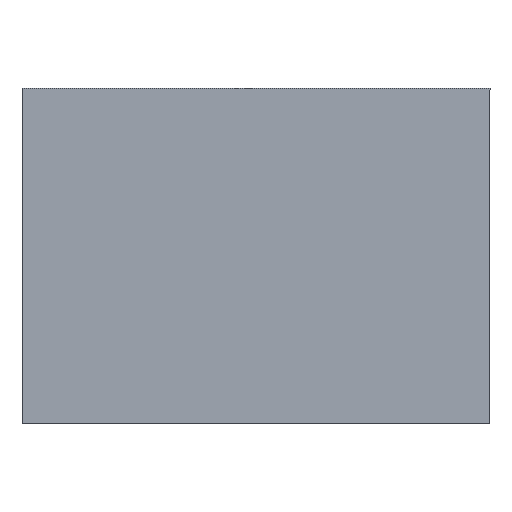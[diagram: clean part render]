
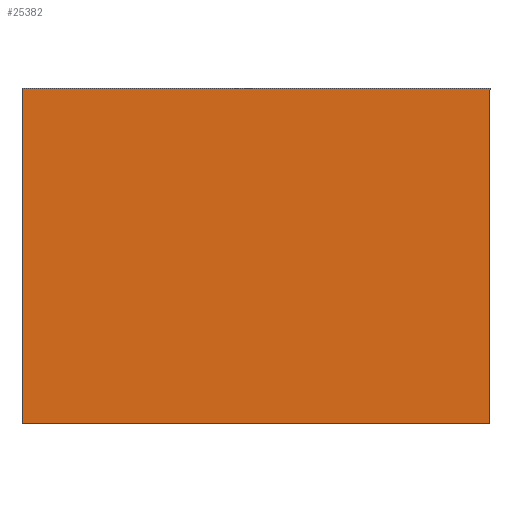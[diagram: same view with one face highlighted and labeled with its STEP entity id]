
A CAD part, top view. The second image highlights one B-rep face of the part: STEP entity #25382.
In plain terms, the highlighted planar face has unit normal (0, 0, 1).
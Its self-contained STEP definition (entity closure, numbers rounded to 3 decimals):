
#8740 = CARTESIAN_POINT ( 'NONE',  ( -1883.618, 1370.798, 3553. ) ) ;
#24502 = DIRECTION ( 'NONE',  ( 0., -1., 0. ) ) ;
#25382 = ADVANCED_FACE ( 'NONE', ( #46071 ), #262521, .T. ) ;
#40208 = CARTESIAN_POINT ( 'NONE',  ( -1883.618, -2364., 3553. ) ) ;
#46071 = FACE_OUTER_BOUND ( 'NONE', #234730, .T. ) ;
#46770 = VECTOR ( 'NONE', #241873, 1000. ) ;
#48116 = LINE ( 'NONE', #52869, #237311 ) ;
#52869 = CARTESIAN_POINT ( 'NONE',  ( -2344.5, 1370.798, 3553. ) ) ;
#67092 = DIRECTION ( 'NONE',  ( 0., 0., 1. ) ) ;
#74516 = LINE ( 'NONE', #245722, #127190 ) ;
#88733 = CARTESIAN_POINT ( 'NONE',  ( -1883.618, -1326.098, 3553. ) ) ;
#95782 = EDGE_CURVE ( 'NONE', #250499, #304079, #211286, .T. ) ;
#118753 = CARTESIAN_POINT ( 'NONE',  ( -6640.985, -1522.539, 3553. ) ) ;
#127190 = VECTOR ( 'NONE', #24502, 1000. ) ;
#133423 = ORIENTED_EDGE ( 'NONE', *, *, #231901, .F. ) ;
#138704 = DIRECTION ( 'NONE',  ( 0., 1., 0. ) ) ;
#149731 = DIRECTION ( 'NONE',  ( 1., 0., 0. ) ) ;
#161543 = ORIENTED_EDGE ( 'NONE', *, *, #95782, .F. ) ;
#168728 = AXIS2_PLACEMENT_3D ( 'NONE', #118753, #67092, #215660 ) ;
#172057 = VECTOR ( 'NONE', #138704, 1000. ) ;
#178921 = CARTESIAN_POINT ( 'NONE',  ( 1883.618, 1370.798, 3553. ) ) ;
#211286 = LINE ( 'NONE', #290291, #46770 ) ;
#215062 = ORIENTED_EDGE ( 'NONE', *, *, #306173, .F. ) ;
#215660 = DIRECTION ( 'NONE',  ( 1., 0., 0. ) ) ;
#219971 = EDGE_CURVE ( 'NONE', #276377, #250499, #74516, .T. ) ;
#231901 = EDGE_CURVE ( 'NONE', #255945, #276377, #48116, .T. ) ;
#234730 = EDGE_LOOP ( 'NONE', ( #161543, #314095, #133423, #215062 ) ) ;
#237311 = VECTOR ( 'NONE', #149731, 1000. ) ;
#240913 = CARTESIAN_POINT ( 'NONE',  ( 1883.618, -1326.098, 3553. ) ) ;
#241873 = DIRECTION ( 'NONE',  ( -1., 0., 0. ) ) ;
#245722 = CARTESIAN_POINT ( 'NONE',  ( 1883.618, -2364., 3553. ) ) ;
#250499 = VERTEX_POINT ( 'NONE', #240913 ) ;
#255945 = VERTEX_POINT ( 'NONE', #8740 ) ;
#261432 = LINE ( 'NONE', #40208, #172057 ) ;
#262521 = PLANE ( 'NONE',  #168728 ) ;
#276377 = VERTEX_POINT ( 'NONE', #178921 ) ;
#290291 = CARTESIAN_POINT ( 'NONE',  ( -2344.5, -1326.098, 3553. ) ) ;
#304079 = VERTEX_POINT ( 'NONE', #88733 ) ;
#306173 = EDGE_CURVE ( 'NONE', #304079, #255945, #261432, .T. ) ;
#314095 = ORIENTED_EDGE ( 'NONE', *, *, #219971, .F. ) ;
